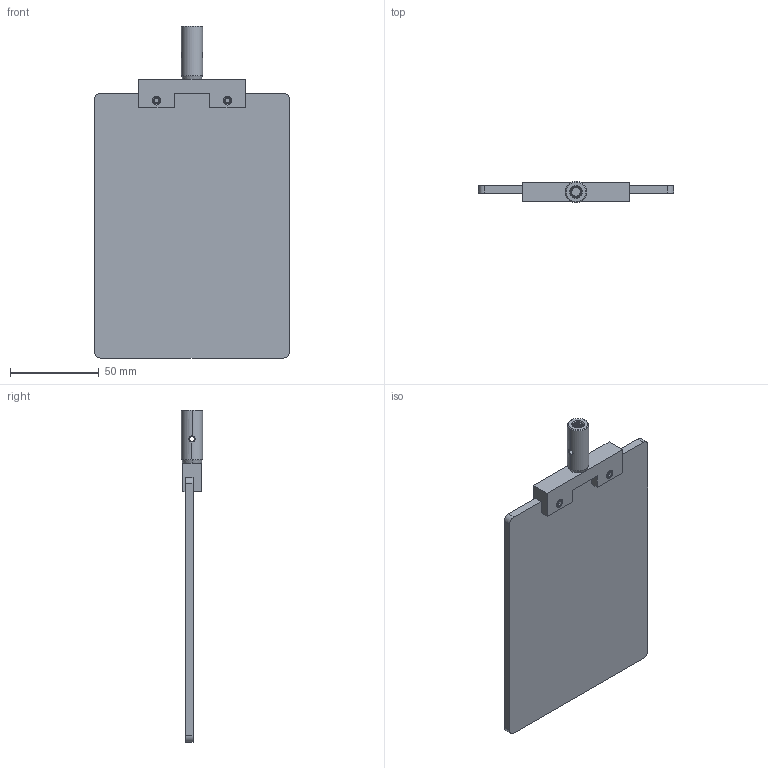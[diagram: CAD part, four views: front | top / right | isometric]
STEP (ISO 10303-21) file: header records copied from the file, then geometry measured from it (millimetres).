
FILE_DESCRIPTION((''),'2;1');
FILE_NAME('PIS-A_ASM','2021-07-30T',('daizhiwen'),(''),'CREO PARAMETRIC BY PTC INC, 2018360','CREO PARAMETRIC BY PTC INC, 2018360','');
FILE_SCHEMA(('CONFIG_CONTROL_DESIGN'));
Products named in the file (6): PIS-A_A1; PIS-A_A2; M4X5_HS_2; PCA3-S; M4X16_HS; PIS-A_ASM
Assembly tree (6 placements, depth 2):
  PIS-A_ASM
    PIS-A_A1
    PIS-A_A2
    M4X5_HS_2  x2
    PCA3-S
    M4X16_HS
Bounding box: 110 x 12 x 187 mm (x, y, z)
Volume: 82275.6 mm3; surface area: 41926.5 mm2
Topology: 6 solids, 6 shells, 1081 faces, 2947 edges, 1920 vertices
Faces by surface type: plane 627, cylinder 226, bspline 185, cone 26, extrusion 17
Entity records: 65839 total; most frequent: CARTESIAN_POINT 41300, ORIENTED_EDGE 5630, DIRECTION 4007, EDGE_CURVE 2815, VECTOR 2129, LINE 2112, VERTEX_POINT 1836, EDGE_LOOP 1079
